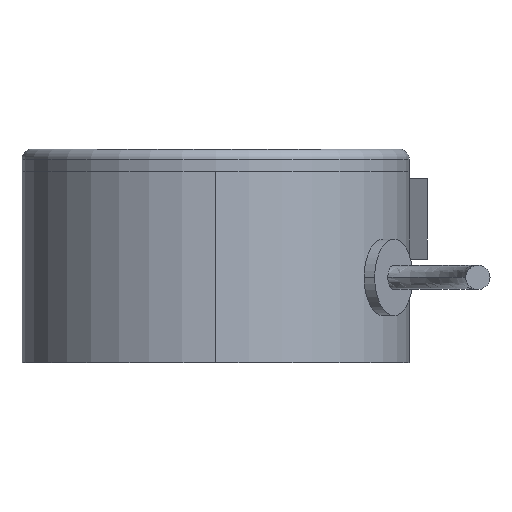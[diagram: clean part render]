
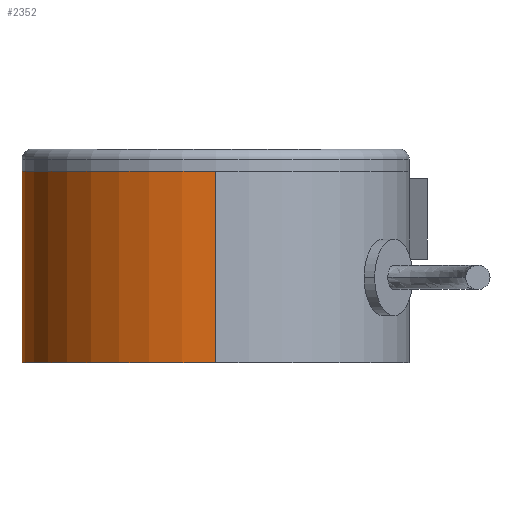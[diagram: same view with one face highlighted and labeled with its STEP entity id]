
A CAD part, left-side view. The second image highlights one B-rep face of the part: STEP entity #2352.
In plain terms, the highlighted cylindrical face has radius 38 mm (diameter 76 mm), a partial arc.
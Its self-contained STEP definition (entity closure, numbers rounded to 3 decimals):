
#20 = FACE_OUTER_BOUND ( 'NONE', #1614, .T. ) ;
#32 = DIRECTION ( 'NONE',  ( 0., 0., 1. ) ) ;
#76 = AXIS2_PLACEMENT_3D ( 'NONE', #831, #121, #1224 ) ;
#105 = CARTESIAN_POINT ( 'NONE',  ( 38., 0., 37.6 ) ) ;
#121 = DIRECTION ( 'NONE',  ( 0., 0., 1. ) ) ;
#168 = DIRECTION ( 'NONE',  ( 0., 0., -1. ) ) ;
#236 = CARTESIAN_POINT ( 'NONE',  ( 38., 0., 37.6 ) ) ;
#245 = VECTOR ( 'NONE', #928, 1000. ) ;
#273 = ORIENTED_EDGE ( 'NONE', *, *, #769, .F. ) ;
#400 = ORIENTED_EDGE ( 'NONE', *, *, #723, .T. ) ;
#406 = VECTOR ( 'NONE', #168, 1000. ) ;
#418 = VERTEX_POINT ( 'NONE', #236 ) ;
#463 = AXIS2_PLACEMENT_3D ( 'NONE', #993, #1751, #1764 ) ;
#464 = CARTESIAN_POINT ( 'NONE',  ( 38., 0., 0. ) ) ;
#485 = VERTEX_POINT ( 'NONE', #1222 ) ;
#488 = EDGE_CURVE ( 'NONE', #418, #633, #1949, .T. ) ;
#492 = ORIENTED_EDGE ( 'NONE', *, *, #488, .T. ) ;
#557 = CARTESIAN_POINT ( 'NONE',  ( 38., 0., 37.6 ) ) ;
#633 = VERTEX_POINT ( 'NONE', #890 ) ;
#668 = VERTEX_POINT ( 'NONE', #1832 ) ;
#694 = CIRCLE ( 'NONE', #76, 38. ) ;
#700 = CIRCLE ( 'NONE', #463, 38. ) ;
#723 = EDGE_CURVE ( 'NONE', #1018, #2243, #1429, .T. ) ;
#763 = CYLINDRICAL_SURFACE ( 'NONE', #1705, 38. ) ;
#769 = EDGE_CURVE ( 'NONE', #668, #485, #1524, .T. ) ;
#831 = CARTESIAN_POINT ( 'NONE',  ( 0., 0., 0. ) ) ;
#890 = CARTESIAN_POINT ( 'NONE',  ( 38., 0., 36.15 ) ) ;
#908 = ORIENTED_EDGE ( 'NONE', *, *, #1729, .F. ) ;
#928 = DIRECTION ( 'NONE',  ( 0., 0., -1. ) ) ;
#993 = CARTESIAN_POINT ( 'NONE',  ( 0., 0., 37.6 ) ) ;
#1018 = VERTEX_POINT ( 'NONE', #2171 ) ;
#1024 = DIRECTION ( 'NONE',  ( 0., 0., -1. ) ) ;
#1051 = ORIENTED_EDGE ( 'NONE', *, *, #2231, .F. ) ;
#1096 = DIRECTION ( 'NONE',  ( 0., 0., -1. ) ) ;
#1222 = CARTESIAN_POINT ( 'NONE',  ( -38., 0., 0. ) ) ;
#1224 = DIRECTION ( 'NONE',  ( 1., 0., 0. ) ) ;
#1316 = VECTOR ( 'NONE', #32, 1000. ) ;
#1395 = EDGE_CURVE ( 'NONE', #2243, #485, #694, .T. ) ;
#1429 = LINE ( 'NONE', #557, #406 ) ;
#1465 = VECTOR ( 'NONE', #1024, 1000. ) ;
#1502 = LINE ( 'NONE', #2060, #1316 ) ;
#1524 = LINE ( 'NONE', #2094, #245 ) ;
#1614 = EDGE_LOOP ( 'NONE', ( #1051, #492, #908, #400, #2257, #273 ) ) ;
#1679 = CARTESIAN_POINT ( 'NONE',  ( 0., 0., 37.6 ) ) ;
#1705 = AXIS2_PLACEMENT_3D ( 'NONE', #1679, #1096, #2066 ) ;
#1729 = EDGE_CURVE ( 'NONE', #1018, #633, #1502, .T. ) ;
#1751 = DIRECTION ( 'NONE',  ( 0., 0., 1. ) ) ;
#1764 = DIRECTION ( 'NONE',  ( 1., 0., 0. ) ) ;
#1832 = CARTESIAN_POINT ( 'NONE',  ( -38., 0., 37.6 ) ) ;
#1949 = LINE ( 'NONE', #105, #1465 ) ;
#2060 = CARTESIAN_POINT ( 'NONE',  ( 38., 0., 20.4 ) ) ;
#2066 = DIRECTION ( 'NONE',  ( -1., 0., 0. ) ) ;
#2094 = CARTESIAN_POINT ( 'NONE',  ( -38., 0., 37.6 ) ) ;
#2171 = CARTESIAN_POINT ( 'NONE',  ( 38., 0., 20.4 ) ) ;
#2231 = EDGE_CURVE ( 'NONE', #418, #668, #700, .T. ) ;
#2243 = VERTEX_POINT ( 'NONE', #464 ) ;
#2257 = ORIENTED_EDGE ( 'NONE', *, *, #1395, .T. ) ;
#2352 = ADVANCED_FACE ( 'NONE', ( #20 ), #763, .T. ) ;
